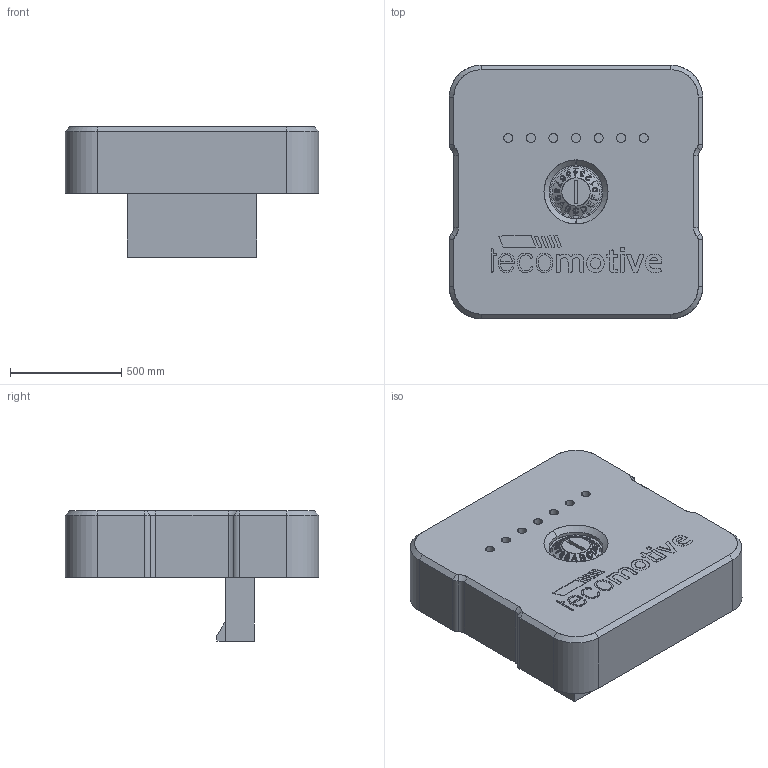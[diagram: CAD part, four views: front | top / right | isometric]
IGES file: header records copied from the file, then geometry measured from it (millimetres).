
Start section: Tecomotive IGES file using analytic representation for surfaces
Global section: file name:                                                                                                                                                                  
Bounding box: 1140.46 x 1140.46 x 586.49 mm (x, y, z)
Surface area: 11724305.9 mm2 (no closed solid volume)
Topology: 0 solids, 0 shells, 2164 faces, 16780 edges, 16776 vertices
Faces by surface type: bspline 1506, revolution 658
